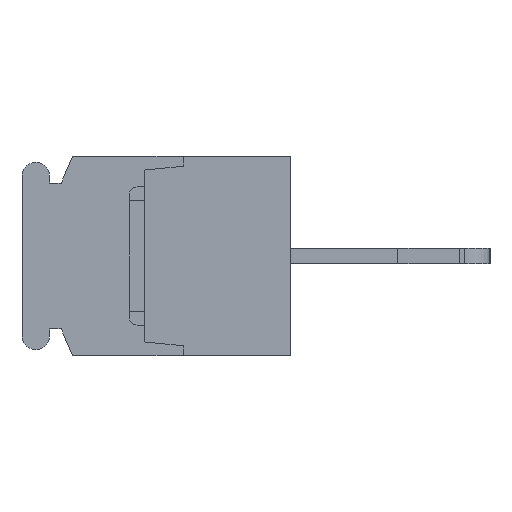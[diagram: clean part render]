
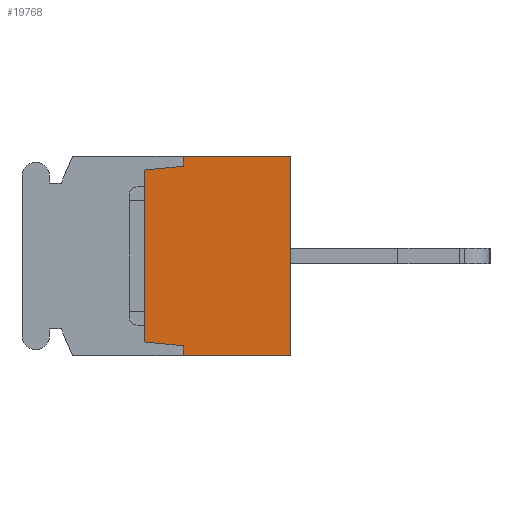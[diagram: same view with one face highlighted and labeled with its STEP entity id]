
A CAD part, left-side view. The second image highlights one B-rep face of the part: STEP entity #19768.
In plain terms, the highlighted planar face has unit normal (-1, 0, 0).
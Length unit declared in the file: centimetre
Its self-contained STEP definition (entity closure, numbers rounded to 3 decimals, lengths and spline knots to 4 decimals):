
#1278=VECTOR('',#21782,1.);
#1315=VECTOR('',#21820,1.);
#1381=VECTOR('',#21902,1.);
#2462=VECTOR('',#24568,1.);
#2463=VECTOR('',#24569,1.);
#2464=VECTOR('',#24570,1.);
#2465=VECTOR('',#24571,1.);
#2466=VECTOR('',#24572,1.);
#3472=LINE('',#27206,#1278);
#3509=LINE('',#27279,#1315);
#3575=LINE('',#27414,#1381);
#4656=LINE('',#30908,#2462);
#4657=LINE('',#30910,#2463);
#4658=LINE('',#30912,#2464);
#4659=LINE('',#30914,#2465);
#4660=LINE('',#30916,#2466);
#5686=VERTEX_POINT('',#27203);
#5687=VERTEX_POINT('',#27205);
#5723=VERTEX_POINT('',#27280);
#5779=VERTEX_POINT('',#27413);
#6794=VERTEX_POINT('',#30909);
#6795=VERTEX_POINT('',#30911);
#6796=VERTEX_POINT('',#30913);
#6797=VERTEX_POINT('',#30915);
#8282=EDGE_CURVE('',#5687,#5686,#3472,.T.);
#8319=EDGE_CURVE('',#5686,#5723,#3509,.T.);
#8387=EDGE_CURVE('',#5779,#5687,#3575,.T.);
#9958=EDGE_CURVE('',#6794,#5779,#4656,.T.);
#9959=EDGE_CURVE('',#6795,#6794,#4657,.T.);
#9960=EDGE_CURVE('',#6796,#6795,#4658,.T.);
#9961=EDGE_CURVE('',#6797,#6796,#4659,.T.);
#9962=EDGE_CURVE('',#5723,#6797,#4660,.T.);
#15360=ORIENTED_EDGE('',*,*,#8282,.F.);
#15361=ORIENTED_EDGE('',*,*,#8387,.F.);
#15362=ORIENTED_EDGE('',*,*,#9958,.F.);
#15363=ORIENTED_EDGE('',*,*,#9959,.F.);
#15364=ORIENTED_EDGE('',*,*,#9960,.F.);
#15365=ORIENTED_EDGE('',*,*,#9961,.F.);
#15366=ORIENTED_EDGE('',*,*,#9962,.F.);
#15367=ORIENTED_EDGE('',*,*,#8319,.F.);
#17408=EDGE_LOOP('',(#15360,#15361,#15362,#15363,#15364,#15365,#15366,#15367));
#18648=FACE_BOUND('',#17408,.T.);
#19768=ADVANCED_FACE('',(#18648),#20653,.F.);
#20653=PLANE('',#33722);
#21782=DIRECTION('',(0.,0.,-1.));
#21820=DIRECTION('',(0.,1.,0.));
#21902=DIRECTION('',(0.,-1.,0.));
#24567=DIRECTION('',(1.,0.,0.));
#24568=DIRECTION('',(0.,0.,1.));
#24569=DIRECTION('',(0.,-0.995,0.1));
#24570=DIRECTION('',(0.,0.,1.));
#24571=DIRECTION('',(0.,0.995,0.1));
#24572=DIRECTION('',(0.,0.,1.));
#27203=CARTESIAN_POINT('',(-1.84,0.,-0.65));
#27205=CARTESIAN_POINT('',(-1.84,0.,0.65));
#27206=CARTESIAN_POINT('',(-1.84,0.,0.65));
#27279=CARTESIAN_POINT('',(-1.84,0.,-0.65));
#27280=CARTESIAN_POINT('',(-1.84,0.7,-0.65));
#27413=CARTESIAN_POINT('',(-1.84,0.7,0.65));
#27414=CARTESIAN_POINT('',(-1.84,0.7,0.65));
#30907=CARTESIAN_POINT('',(-1.84,0.4626,0.));
#30908=CARTESIAN_POINT('',(-1.84,0.7,0.585));
#30909=CARTESIAN_POINT('',(-1.84,0.7,0.585));
#30910=CARTESIAN_POINT('',(-1.84,0.95,0.56));
#30911=CARTESIAN_POINT('',(-1.84,0.95,0.56));
#30912=CARTESIAN_POINT('',(-1.84,0.95,-0.56));
#30913=CARTESIAN_POINT('',(-1.84,0.95,-0.56));
#30914=CARTESIAN_POINT('',(-1.84,0.7,-0.585));
#30915=CARTESIAN_POINT('',(-1.84,0.7,-0.585));
#30916=CARTESIAN_POINT('',(-1.84,0.7,-0.65));
#33722=AXIS2_PLACEMENT_3D('',#30907,#24567,$);
